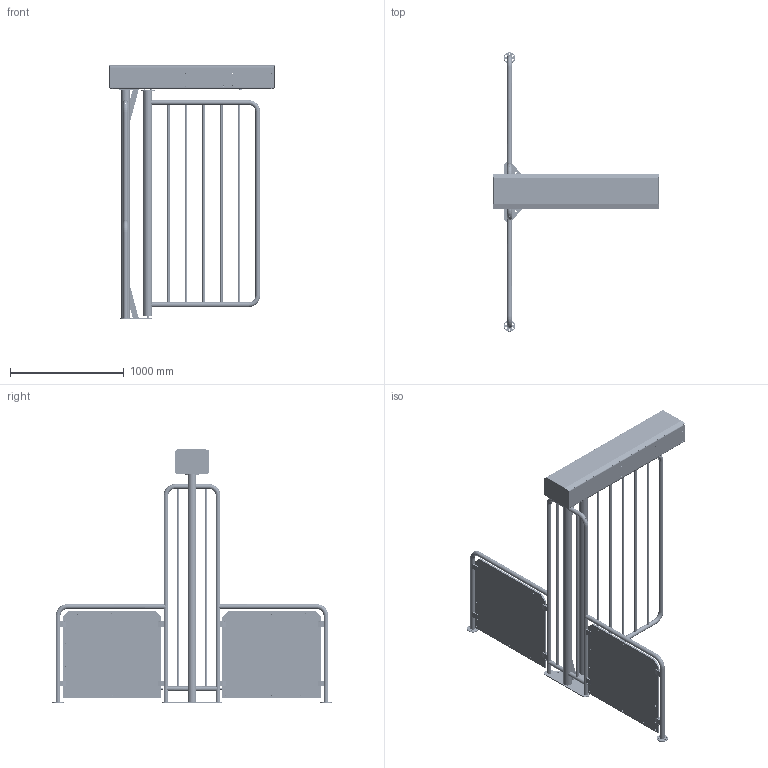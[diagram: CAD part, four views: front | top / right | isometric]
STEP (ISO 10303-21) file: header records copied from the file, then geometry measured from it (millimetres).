
FILE_DESCRIPTION(/* description */ ('Unknown'),/* implementation_level */ '2;1');
FILE_NAME(/* name */ '55870028_00',/* time_stamp */ '2026-04-24T07:06:46+02:00',/* author */ ('Unknown'),/* organization */ ('Unknown'),/* preprocessor_version */ 'ST-DEVELOPER v18.104',/* originating_system */ 'Solid Edge',/* authorisation */ 'Unknown');
FILE_SCHEMA (('AUTOMOTIVE_DESIGN {1 0 10303 214 3 1 1}'));
Products named in the file (1): 55870028
Bounding box: 1451.3 x 2457.6 x 2235.39 mm (x, y, z)
Volume: 38105570 mm3; surface area: 15791890.8 mm2
Topology: 191 solids, 191 shells, 8287 faces, 19375 edges, 11657 vertices
Faces by surface type: plane 2999, cylinder 2878, torus 1240, cone 786, sphere 248, bspline 136
Full cylindrical faces by diameter (mm): 0.1 x10, 1 x1, 4 x4, 4.2 x4, 4.5 x1, 4.773 x24, 4.917 x16, 5 x24, 5.5 x12, 5.9 x1, 6 x72, 6.242 x24, 6.4 x40, 6.5 x1, 6.8 x3, 7 x48, 8 x17, 8.16 x1, 8.376 x2, 8.5 x21, 8.66 x24, 10 x11, 10.106 x6, 10.156 x6, 10.2 x4, 10.3 x2, 10.5 x3, 10.7 x1, 11 x16, 11.34 x16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
Entity records: 246293 total; most frequent: CARTESIAN_POINT 59119, DIRECTION 39870, ORIENTED_EDGE 36152, EDGE_CURVE 18076, AXIS2_PLACEMENT_3D 15839, VERTEX_POINT 11333, FACE_BOUND 10005, EDGE_LOOP 9998
